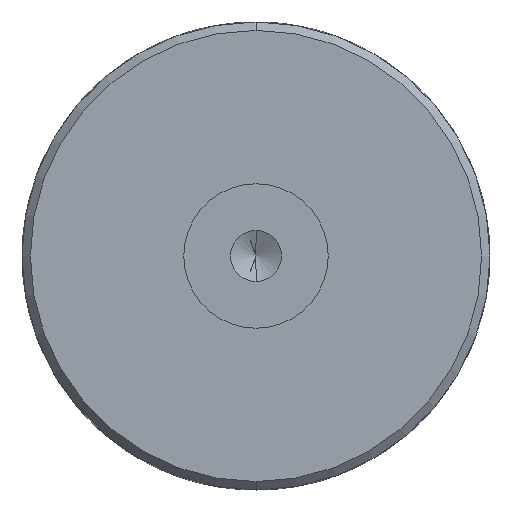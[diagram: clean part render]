
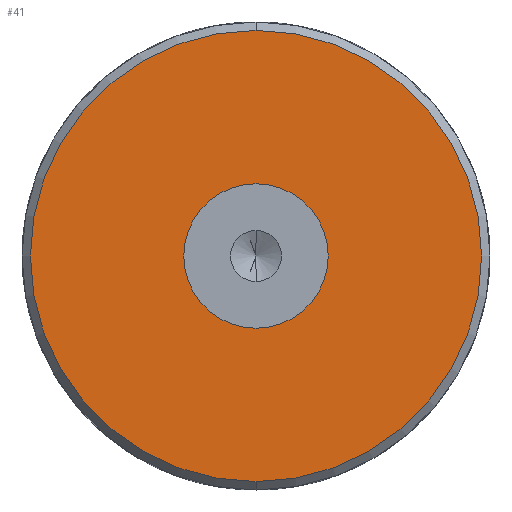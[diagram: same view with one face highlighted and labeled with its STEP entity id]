
A CAD part, front view. The second image highlights one B-rep face of the part: STEP entity #41.
In plain terms, the highlighted planar face has unit normal (0, -1, 0).
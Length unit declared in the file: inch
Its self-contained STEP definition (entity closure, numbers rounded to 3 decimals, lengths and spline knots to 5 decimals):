
#37 = EDGE_LOOP ( 'NONE', ( #39, #1853 ) ) ;
#39 = ORIENTED_EDGE ( 'NONE', *, *, #40, .F. ) ;
#40 = EDGE_CURVE ( 'NONE', #1960, #4306, #3181, .T. ) ;
#41 = ADVANCED_FACE ( 'NONE', ( #3243, #3242 ), #3241, .F. ) ;
#1736 = CARTESIAN_POINT ( 'NONE',  ( 0., 0., 0.5325 ) ) ;
#1750 = CARTESIAN_POINT ( 'NONE',  ( 0., 0., 1.663 ) ) ;
#1751 = CARTESIAN_POINT ( 'NONE',  ( 0., 0., -1.663 ) ) ;
#1853 = ORIENTED_EDGE ( 'NONE', *, *, #1961, .F. ) ;
#1856 = EDGE_LOOP ( 'NONE', ( #1859, #1862 ) ) ;
#1859 = ORIENTED_EDGE ( 'NONE', *, *, #1861, .T. ) ;
#1861 = EDGE_CURVE ( 'NONE', #4300, #4299, #3264, .T. ) ;
#1862 = ORIENTED_EDGE ( 'NONE', *, *, #1918, .T. ) ;
#1918 = EDGE_CURVE ( 'NONE', #4299, #4300, #3362, .T. ) ;
#1960 = VERTEX_POINT ( 'NONE', #3497 ) ;
#1961 = EDGE_CURVE ( 'NONE', #4306, #1960, #3496, .T. ) ;
#3179 = CARTESIAN_POINT ( 'NONE',  ( 0., 0., 0. ) ) ;
#3180 = AXIS2_PLACEMENT_3D ( 'NONE', #3179, #3188, #3244 ) ;
#3181 = CIRCLE ( 'NONE', #3180, 0.5325 ) ;
#3188 = DIRECTION ( 'NONE',  ( 0., -1., 0. ) ) ;
#3237 = DIRECTION ( 'NONE',  ( 0., 0., 1. ) ) ;
#3238 = DIRECTION ( 'NONE',  ( 0., 1., 0. ) ) ;
#3239 = AXIS2_PLACEMENT_3D ( 'NONE', #3240, #3238, #3237 ) ;
#3240 = CARTESIAN_POINT ( 'NONE',  ( 0., 0., 0. ) ) ;
#3241 = PLANE ( 'NONE',  #3239 ) ;
#3242 = FACE_OUTER_BOUND ( 'NONE', #1856, .T. ) ;
#3243 = FACE_BOUND ( 'NONE', #37, .T. ) ;
#3244 = DIRECTION ( 'NONE',  ( 0., 0., -1. ) ) ;
#3257 = DIRECTION ( 'NONE',  ( 0., 0., 1. ) ) ;
#3258 = DIRECTION ( 'NONE',  ( 0., -1., 0. ) ) ;
#3259 = CARTESIAN_POINT ( 'NONE',  ( 0., 0., 0. ) ) ;
#3260 = AXIS2_PLACEMENT_3D ( 'NONE', #3259, #3258, #3257 ) ;
#3264 = CIRCLE ( 'NONE', #3260, 1.663 ) ;
#3358 = DIRECTION ( 'NONE',  ( 0., 0., 1. ) ) ;
#3359 = DIRECTION ( 'NONE',  ( 0., -1., 0. ) ) ;
#3360 = CARTESIAN_POINT ( 'NONE',  ( 0., 0., 0. ) ) ;
#3361 = AXIS2_PLACEMENT_3D ( 'NONE', #3360, #3359, #3358 ) ;
#3362 = CIRCLE ( 'NONE', #3361, 1.663 ) ;
#3492 = DIRECTION ( 'NONE',  ( 0., 0., -1. ) ) ;
#3493 = DIRECTION ( 'NONE',  ( 0., -1., 0. ) ) ;
#3494 = CARTESIAN_POINT ( 'NONE',  ( 0., 0., 0. ) ) ;
#3495 = AXIS2_PLACEMENT_3D ( 'NONE', #3494, #3493, #3492 ) ;
#3496 = CIRCLE ( 'NONE', #3495, 0.5325 ) ;
#3497 = CARTESIAN_POINT ( 'NONE',  ( 0., 0., -0.5325 ) ) ;
#4299 = VERTEX_POINT ( 'NONE', #1751 ) ;
#4300 = VERTEX_POINT ( 'NONE', #1750 ) ;
#4306 = VERTEX_POINT ( 'NONE', #1736 ) ;
